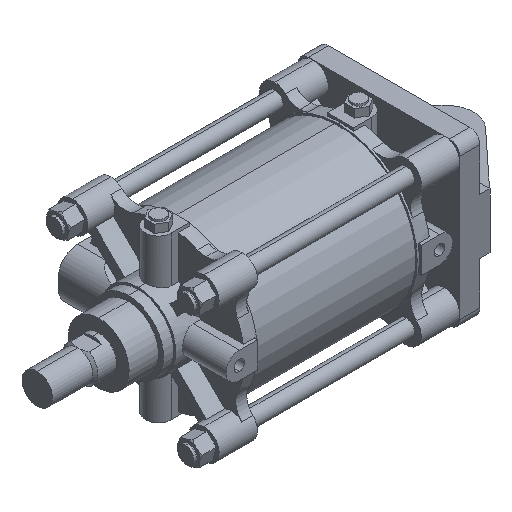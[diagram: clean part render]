
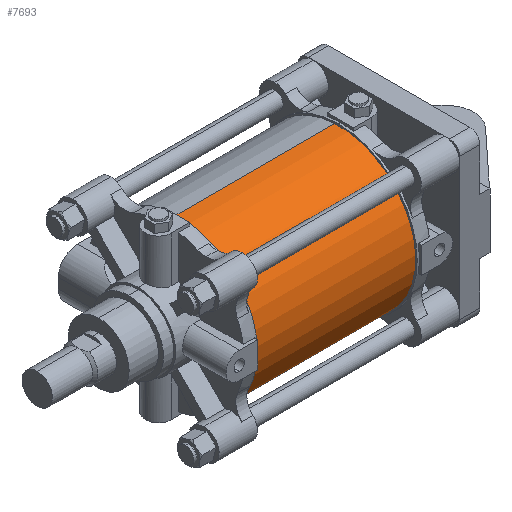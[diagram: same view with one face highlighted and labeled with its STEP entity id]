
A CAD part, isometric view. The second image highlights one B-rep face of the part: STEP entity #7693.
In plain terms, the highlighted cylindrical face has radius 76.5 mm (diameter 153 mm), a partial arc.
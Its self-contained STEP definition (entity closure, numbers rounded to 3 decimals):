
#80 = EDGE_LOOP ( 'NONE', ( #2447, #9439, #8909, #6682 ) ) ;
#449 = EDGE_CURVE ( 'NONE', #7685, #9690, #2657, .T. ) ;
#683 = DIRECTION ( 'NONE',  ( 1., 0., 0. ) ) ;
#990 = EDGE_CURVE ( 'NONE', #9690, #8703, #8394, .T. ) ;
#1871 = CIRCLE ( 'NONE', #3133, 76.5 ) ;
#2116 = EDGE_CURVE ( 'NONE', #10421, #8703, #10063, .T. ) ;
#2447 = ORIENTED_EDGE ( 'NONE', *, *, #2116, .F. ) ;
#2630 = FACE_OUTER_BOUND ( 'NONE', #80, .T. ) ;
#2657 = LINE ( 'NONE', #2842, #8443 ) ;
#2842 = CARTESIAN_POINT ( 'NONE',  ( 79., 0., 76.5 ) ) ;
#3133 = AXIS2_PLACEMENT_3D ( 'NONE', #6645, #9326, #4908 ) ;
#3349 = DIRECTION ( 'NONE',  ( -1., 0., 0. ) ) ;
#4179 = CARTESIAN_POINT ( 'NONE',  ( -79., 0., 76.5 ) ) ;
#4430 = DIRECTION ( 'NONE',  ( -1., 0., 0. ) ) ;
#4908 = DIRECTION ( 'NONE',  ( 0., 0., -1. ) ) ;
#4981 = EDGE_CURVE ( 'NONE', #7685, #10421, #1871, .T. ) ;
#4982 = CARTESIAN_POINT ( 'NONE',  ( 79., 0., -76.5 ) ) ;
#5420 = CARTESIAN_POINT ( 'NONE',  ( -79., 0., 0. ) ) ;
#5429 = DIRECTION ( 'NONE',  ( -1., 0., 0. ) ) ;
#6496 = DIRECTION ( 'NONE',  ( 0., 0., -1. ) ) ;
#6645 = CARTESIAN_POINT ( 'NONE',  ( 79., 0., 0. ) ) ;
#6682 = ORIENTED_EDGE ( 'NONE', *, *, #990, .T. ) ;
#6863 = CARTESIAN_POINT ( 'NONE',  ( 79., 0., -76.5 ) ) ;
#7094 = AXIS2_PLACEMENT_3D ( 'NONE', #8520, #5429, #10187 ) ;
#7190 = AXIS2_PLACEMENT_3D ( 'NONE', #5420, #683, #6496 ) ;
#7685 = VERTEX_POINT ( 'NONE', #9661 ) ;
#7693 = ADVANCED_FACE ( 'NONE', ( #2630 ), #9502, .T. ) ;
#8110 = VECTOR ( 'NONE', #4430, 1000. ) ;
#8394 = CIRCLE ( 'NONE', #7190, 76.5 ) ;
#8443 = VECTOR ( 'NONE', #3349, 1000. ) ;
#8510 = CARTESIAN_POINT ( 'NONE',  ( -79., 0., -76.5 ) ) ;
#8520 = CARTESIAN_POINT ( 'NONE',  ( 79., 0., 0. ) ) ;
#8703 = VERTEX_POINT ( 'NONE', #8510 ) ;
#8909 = ORIENTED_EDGE ( 'NONE', *, *, #449, .T. ) ;
#9326 = DIRECTION ( 'NONE',  ( 1., 0., 0. ) ) ;
#9439 = ORIENTED_EDGE ( 'NONE', *, *, #4981, .F. ) ;
#9502 = CYLINDRICAL_SURFACE ( 'NONE', #7094, 76.5 ) ;
#9661 = CARTESIAN_POINT ( 'NONE',  ( 79., 0., 76.5 ) ) ;
#9690 = VERTEX_POINT ( 'NONE', #4179 ) ;
#10063 = LINE ( 'NONE', #6863, #8110 ) ;
#10187 = DIRECTION ( 'NONE',  ( 0., 0., 1. ) ) ;
#10421 = VERTEX_POINT ( 'NONE', #4982 ) ;
